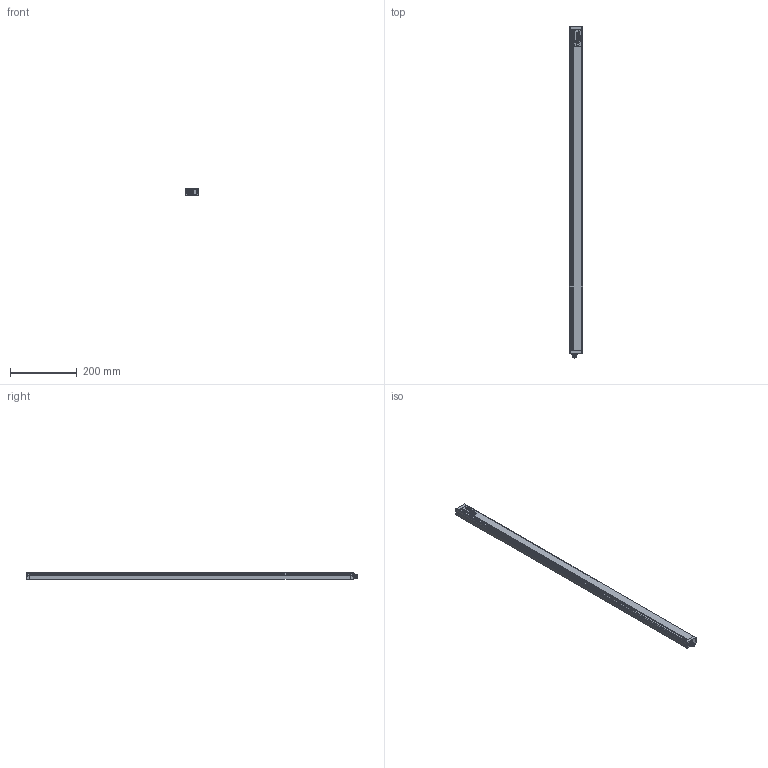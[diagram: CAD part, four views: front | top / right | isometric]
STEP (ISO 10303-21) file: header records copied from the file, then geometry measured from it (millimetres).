
FILE_DESCRIPTION(/* description */ (''),/* implementation_level */ '2;1');
FILE_NAME(/* name */ 'C:\Users\andre\SynologyDrive\Optoscan\Libreria Componenti\00 - Barriere\Barriera sorgente\Argo_960_TX.stp',/* time_stamp */ '2021-04-22T10:20:51+02:00',/* author */ ('andre'),/* organization */ (''),/* preprocessor_version */ 'ST-DEVELOPER v18',/* originating_system */ 'Autodesk Inventor 2020',/* authorisation */ '');
FILE_SCHEMA (('AUTOMOTIVE_DESIGN { 1 0 10303 214 3 1 1 }'));
Length unit declared in the file: millimetre
Products named in the file (1): Argo_960_TX
Bounding box: 40.5 x 993.3 x 20.75 mm (x, y, z)
Volume: 198342.7 mm3; surface area: 258005.5 mm2
Topology: 1 solids, 1 shells, 696 faces, 1911 edges, 1225 vertices
Faces by surface type: plane 321, cylinder 195, bspline 94, torus 72, cone 8, sphere 6
Full cylindrical faces by diameter (mm): 1 x4, 2.459 x4, 2.5 x4, 3 x4, 3.5 x4, 5.5 x4, 8 x1, 10.5 x2, 11.75 x9, 15.7 x1, 17.5 x1
Entity records: 30770 total; most frequent: CARTESIAN_POINT 12670, ORIENTED_EDGE 3806, DIRECTION 3415, EDGE_CURVE 1903, VERTEX_POINT 1225, AXIS2_PLACEMENT_3D 1193, LINE 1029, VECTOR 1029
